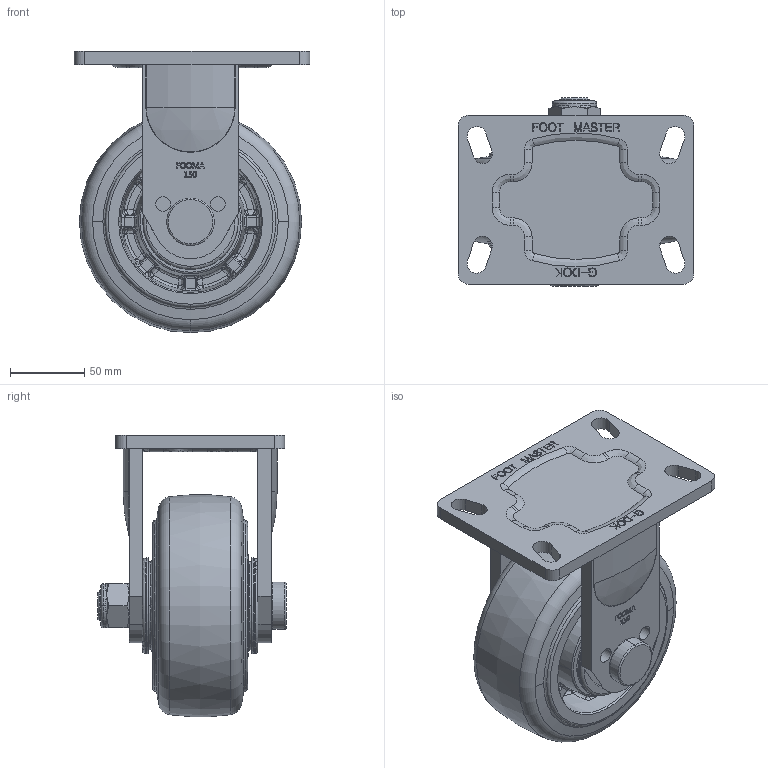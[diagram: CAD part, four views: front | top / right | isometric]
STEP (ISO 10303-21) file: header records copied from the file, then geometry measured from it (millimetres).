
FILE_DESCRIPTION((''),'2;1');
FILE_NAME('GF-150A-RF-MUD.stp','2012-06-07T19:55:40',(''),(''),'Mechanical Desktop 2009','Mechanical Desktop 2009',', , ');
FILE_SCHEMA(('CONFIG_CONTROL_DESIGN'));
Length unit declared in the file: millimetre
Products named in the file (2): GF-150A-RF-MUD; GF-RF-PLATE
Assembly tree (1 placements, depth 2):
  GF-150A-RF-MUD
    GF-RF-PLATE
Bounding box: 159 x 127 x 189.84 mm (x, y, z)
Volume: 1263996.4 mm3; surface area: 172453.8 mm2
Topology: 1 solids, 1 shells, 1519 faces, 4097 edges, 2526 vertices
Faces by surface type: bspline 802, plane 415, cylinder 204, torus 54, cone 40, sphere 4
Entity records: 77982 total; most frequent: CARTESIAN_POINT 45546, ORIENTED_EDGE 8034, DIRECTION 4783, EDGE_CURVE 4017, VERTEX_POINT 2526, AXIS2_PLACEMENT_3D 1643, EDGE_LOOP 1607, FACE_OUTER_BOUND 1519
